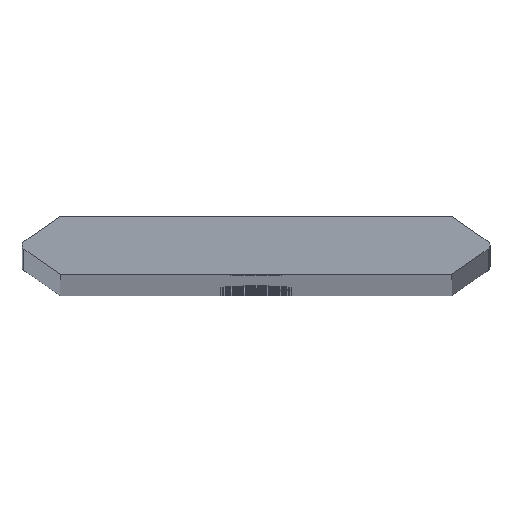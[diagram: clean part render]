
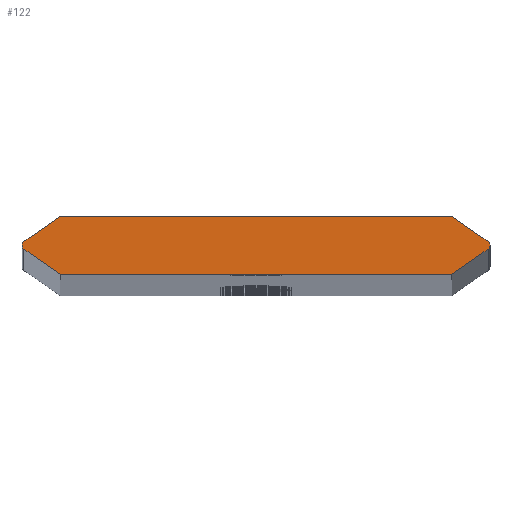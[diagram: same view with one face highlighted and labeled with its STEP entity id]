
A CAD part, top view. The second image highlights one B-rep face of the part: STEP entity #122.
In plain terms, the highlighted planar face has unit normal (0, 0, 1).
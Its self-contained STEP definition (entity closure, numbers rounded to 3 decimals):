
#122=ADVANCED_FACE('',(#226),#227,.T.);
#226=FACE_OUTER_BOUND('',#382,.T.);
#227=PLANE('',#383);
#382=EDGE_LOOP('',(#773,#774,#775,#776,#777,#778,#779,#780,#781,#782));
#383=AXIS2_PLACEMENT_3D('',#783,#784,#785);
#773=ORIENTED_EDGE('',*,*,#941,.T.);
#774=ORIENTED_EDGE('',*,*,#1078,.T.);
#775=ORIENTED_EDGE('',*,*,#1079,.F.);
#776=ORIENTED_EDGE('',*,*,#1080,.F.);
#777=ORIENTED_EDGE('',*,*,#1081,.F.);
#778=ORIENTED_EDGE('',*,*,#937,.T.);
#779=ORIENTED_EDGE('',*,*,#1082,.T.);
#780=ORIENTED_EDGE('',*,*,#1083,.F.);
#781=ORIENTED_EDGE('',*,*,#1084,.F.);
#782=ORIENTED_EDGE('',*,*,#1085,.F.);
#783=CARTESIAN_POINT('',(0.,0.,1976.0));
#784=DIRECTION('',(0.0,0.0,1.0));
#785=DIRECTION('',(1.0,0.0,0.0));
#937=EDGE_CURVE('',#1101,#1098,#1102,.T.);
#941=EDGE_CURVE('',#1109,#1106,#1110,.T.);
#1078=EDGE_CURVE('',#1106,#1336,#1338,.T.);
#1079=EDGE_CURVE('',#1339,#1336,#1340,.T.);
#1080=EDGE_CURVE('',#1341,#1339,#1342,.T.);
#1081=EDGE_CURVE('',#1101,#1341,#1343,.T.);
#1082=EDGE_CURVE('',#1098,#1344,#1345,.T.);
#1083=EDGE_CURVE('',#1346,#1344,#1347,.T.);
#1084=EDGE_CURVE('',#1348,#1346,#1349,.T.);
#1085=EDGE_CURVE('',#1109,#1348,#1350,.T.);
#1098=VERTEX_POINT('',#1368);
#1101=VERTEX_POINT('',#1372);
#1102=CIRCLE('',#1373,0.76);
#1106=VERTEX_POINT('',#1378);
#1109=VERTEX_POINT('',#1382);
#1110=CIRCLE('',#1383,0.76);
#1336=VERTEX_POINT('',#1654);
#1338=CIRCLE('',#1657,0.76);
#1339=VERTEX_POINT('',#1658);
#1340=LINE('',#1659,#1660);
#1341=VERTEX_POINT('',#1661);
#1342=LINE('',#1662,#1663);
#1343=LINE('',#1664,#1665);
#1344=VERTEX_POINT('',#1666);
#1345=CIRCLE('',#1667,0.76);
#1346=VERTEX_POINT('',#1668);
#1347=LINE('',#1669,#1670);
#1348=VERTEX_POINT('',#1671);
#1349=LINE('',#1672,#1673);
#1350=LINE('',#1674,#1675);
#1368=CARTESIAN_POINT('',(37.84,0.,1976.0));
#1372=CARTESIAN_POINT('',(37.519,-0.62,1976.0));
#1373=AXIS2_PLACEMENT_3D('',#1705,#1706,#1707);
#1378=CARTESIAN_POINT('',(-37.84,0.,1976.0));
#1382=CARTESIAN_POINT('',(-37.519,0.62,1976.0));
#1383=AXIS2_PLACEMENT_3D('',#1713,#1714,#1715);
#1654=CARTESIAN_POINT('',(-37.519,-0.62,1976.0));
#1657=AXIS2_PLACEMENT_3D('',#2032,#2033,#2034);
#1658=CARTESIAN_POINT('',(-31.671,-4.715,1976.0));
#1659=CARTESIAN_POINT('',(-38.405,0.,1976.0));
#1660=VECTOR('',#2035,1.0);
#1661=CARTESIAN_POINT('',(31.671,-4.715,1976.0));
#1662=CARTESIAN_POINT('',(31.671,-4.715,1976.0));
#1663=VECTOR('',#2036,1.0);
#1664=CARTESIAN_POINT('',(38.405,0.0,1976.0));
#1665=VECTOR('',#2037,1.0);
#1666=CARTESIAN_POINT('',(37.519,0.62,1976.0));
#1667=AXIS2_PLACEMENT_3D('',#2038,#2039,#2040);
#1668=CARTESIAN_POINT('',(31.671,4.715,1976.0));
#1669=CARTESIAN_POINT('',(38.405,0.0,1976.0));
#1670=VECTOR('',#2041,1.0);
#1671=CARTESIAN_POINT('',(-31.671,4.715,1976.0));
#1672=CARTESIAN_POINT('',(-31.671,4.715,1976.0));
#1673=VECTOR('',#2042,1.0);
#1674=CARTESIAN_POINT('',(-38.405,0.,1976.0));
#1675=VECTOR('',#2043,1.0);
#1705=CARTESIAN_POINT('',(37.08,0.0,1976.0));
#1706=DIRECTION('',(0.0,0.0,1.0));
#1707=DIRECTION('',(1.0,0.0,0.0));
#1713=CARTESIAN_POINT('',(-37.08,0.,1976.0));
#1714=DIRECTION('',(0.0,0.0,1.0));
#1715=DIRECTION('',(-1.0,0.,0.0));
#2032=CARTESIAN_POINT('',(-37.08,0.,1976.0));
#2033=DIRECTION('',(0.0,0.0,1.0));
#2034=DIRECTION('',(-1.0,0.,0.0));
#2035=DIRECTION('',(-0.819,0.574,0.0));
#2036=DIRECTION('',(-1.0,0.0,0.0));
#2037=DIRECTION('',(-0.819,-0.574,0.0));
#2038=CARTESIAN_POINT('',(37.08,0.0,1976.0));
#2039=DIRECTION('',(0.0,0.0,1.0));
#2040=DIRECTION('',(1.0,0.0,0.0));
#2041=DIRECTION('',(0.819,-0.574,0.0));
#2042=DIRECTION('',(1.0,0.,0.0));
#2043=DIRECTION('',(0.819,0.574,0.0));
